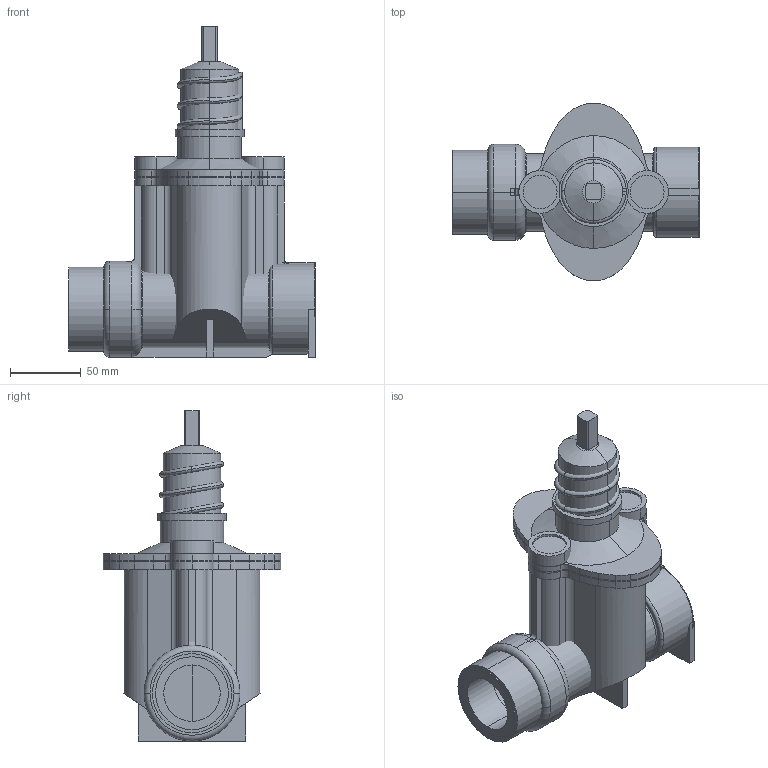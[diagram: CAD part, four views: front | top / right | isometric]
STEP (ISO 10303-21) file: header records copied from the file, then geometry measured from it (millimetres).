
FILE_DESCRIPTION(('STEP AP214'),'1');
FILE_NAME('S:/EK/USER/CAT6/3DHomepage/2520/2520-PN16-DN40.STP','2012-04-25T10:08:24',(' '),(' '),'Spatial InterOp 3D',' ',' ');
FILE_SCHEMA(('automotive_design'));
Length unit declared in the file: millimetre
Products named in the file (38): 3D-Objekt
Bounding box: 175 x 125.81 x 234 mm (x, y, z)
Volume: 1181802.3 mm3; surface area: 246186.6 mm2
Topology: 38 solids, 38 shells, 316 faces, 730 edges, 495 vertices
Faces by surface type: cylinder 143, plane 135, torus 34, cone 4
Entity records: 12631 total; most frequent: DIRECTION 1859, CARTESIAN_POINT 1579, ORIENTED_EDGE 1460, AXIS2_PLACEMENT_3D 775, EDGE_CURVE 730, VERTEX_POINT 495, CIRCLE 419, STYLED_ITEM 354
